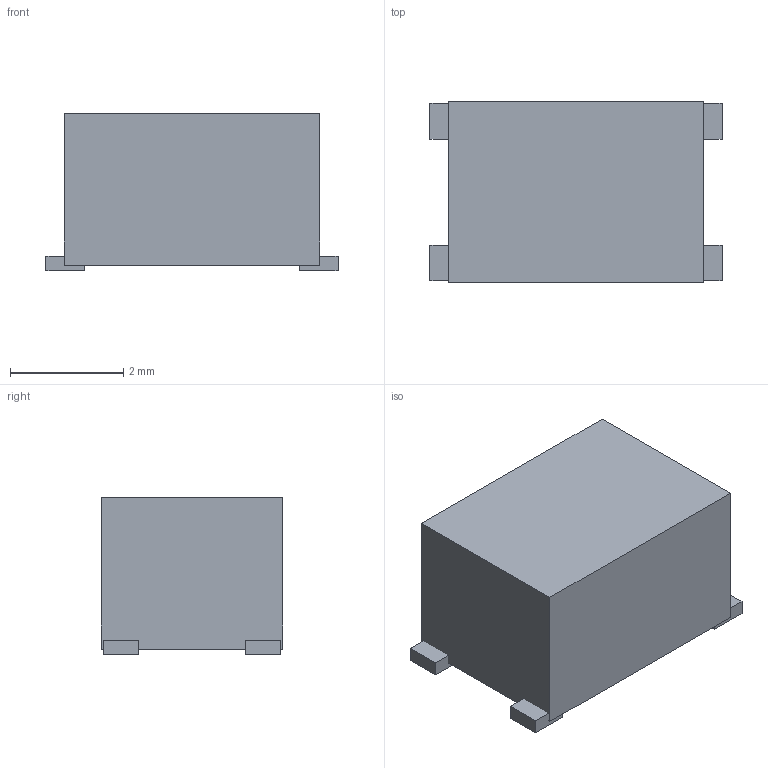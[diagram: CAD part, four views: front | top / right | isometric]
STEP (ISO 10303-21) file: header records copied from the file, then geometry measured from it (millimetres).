
FILE_DESCRIPTION(('FreeCAD Model'),'2;1');
FILE_NAME('Open CASCADE Shape Model','2026-09-21T21:53:17',('FreeCAD'),( 'FreeCAD'),'Open CASCADE STEP processor 7.8','FreeCAD','Unknown');
FILE_SCHEMA(('AUTOMOTIVE_DESIGN { 1 0 10303 214 1 1 1 1 }'));
Length unit declared in the file: millimetre
Products named in the file (1): Open CASCADE STEP translator 7.8 21
Bounding box: 5.15 x 3.2 x 2.78 mm (x, y, z)
Volume: 39 mm3; surface area: 76.2 mm2
Topology: 5 solids, 5 shells, 30 faces, 60 edges, 40 vertices
Faces by surface type: plane 30
Entity records: 766 total; most frequent: CARTESIAN_POINT 131, DIRECTION 122, ORIENTED_EDGE 120, EDGE_CURVE 60, LINE 60, VECTOR 60, VERTEX_POINT 40, AXIS2_PLACEMENT_3D 31
